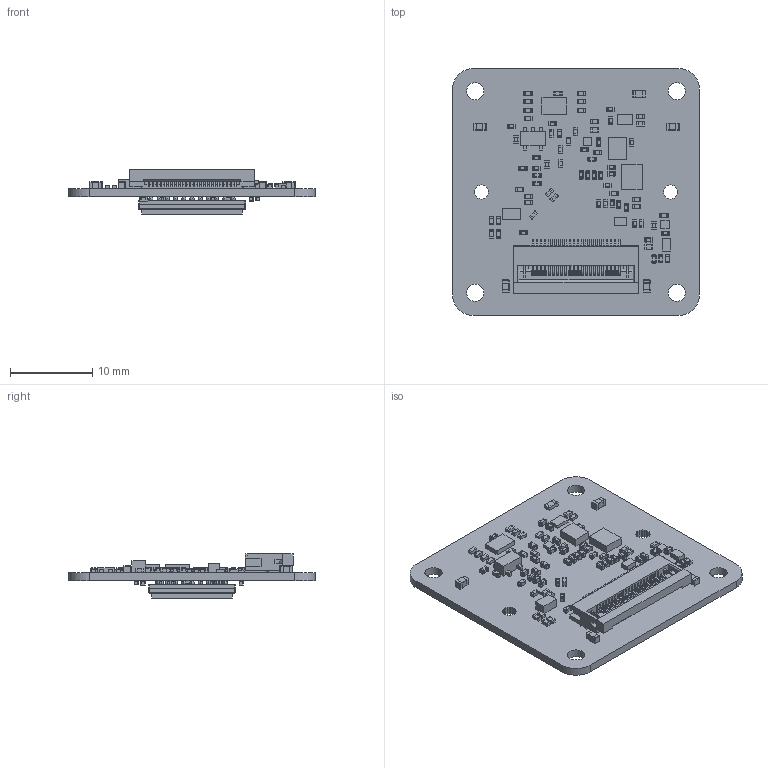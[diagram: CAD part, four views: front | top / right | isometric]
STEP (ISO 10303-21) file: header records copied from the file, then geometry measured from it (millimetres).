
FILE_DESCRIPTION(('Open CASCADE Model'),'2;1');
FILE_NAME('Open CASCADE Shape Model','2025-05-27T14:31:10',('Author'),( 'Open CASCADE'),'Open CASCADE STEP processor 7.5','Open CASCADE 7.5' ,'Unknown');
FILE_SCHEMA(('AUTOMOTIVE_DESIGN { 1 0 10303 214 1 1 1 1 }'));
Length unit declared in the file: millimetre
Products named in the file (148): PCB; Board; Open CASCADE STEP translator 7.5 1.1.1; R29; TIS_0402R_L02_H04; R28; C50; TIS_0402C_L025_H06; C49; R27; R26; R25; C23; TIS_0402C_L025_H05; C22; C14; U1; AR2020CSSC13SMTA0-DP; R24; R23; R22; R5; U8; 7342197280; Extruded; U3; 7047993712; U2; 6814861664; R21; FB3; TIS_0402L_L02_H06; FB2; C48; C47; C46; C45; C44; C43; R20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
Assembly tree (440 placements, depth 4):
  PCB
    Board
      Open CASCADE STEP translator 7.5 1.1.1
    R29
      TIS_0402R_L02_H04
      TIS_0402R_L02_H04
      TIS_0402R_L02_H04
      TIS_0402R_L02_H04
    R28
      TIS_0402R_L02_H04
      TIS_0402R_L02_H04
      TIS_0402R_L02_H04
      TIS_0402R_L02_H04
    C50
      TIS_0402C_L025_H06
      TIS_0402C_L025_H06
      TIS_0402C_L025_H06
    C49
      TIS_0402C_L025_H06
      TIS_0402C_L025_H06
      TIS_0402C_L025_H06
    R27
      TIS_0402R_L02_H04
      TIS_0402R_L02_H04
      TIS_0402R_L02_H04
      TIS_0402R_L02_H04
    R26
      TIS_0402R_L02_H04
      TIS_0402R_L02_H04
      TIS_0402R_L02_H04
      TIS_0402R_L02_H04
    R25
      TIS_0402R_L02_H04
      TIS_0402R_L02_H04
      TIS_0402R_L02_H04
      TIS_0402R_L02_H04
    C23
      TIS_0402C_L025_H05
      TIS_0402C_L025_H05
      TIS_0402C_L025_H05
    C22
      TIS_0402C_L025_H05
      TIS_0402C_L025_H05
      TIS_0402C_L025_H05
    C14
      TIS_0402C_L025_H06
      TIS_0402C_L025_H06
      TIS_0402C_L025_H06
    U1
      AR2020CSSC13SMTA0-DP
    R24
      TIS_0402R_L02_H04
      TIS_0402R_L02_H04
      TIS_0402R_L02_H04
      TIS_0402R_L02_H04
    R23
      TIS_0402R_L02_H04
      TIS_0402R_L02_H04
      TIS_0402R_L02_H04
      TIS_0402R_L02_H04
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Bounding box: 30.01 x 30 x 5.36 mm (x, y, z)
Volume: 1292.8 mm3; surface area: 4274.6 mm2
Topology: 412 solids, 412 shells, 6284 faces, 15307 edges, 9132 vertices
Faces by surface type: plane 3036, cylinder 2172, sphere 620, torus 456
Full cylindrical faces by diameter (mm): 2.1 x4
Entity records: 44533 total; most frequent: CARTESIAN_POINT 7204, DIRECTION 6494, ORIENTED_EDGE 5840, EDGE_CURVE 2920, AXIS2_PLACEMENT_3D 2220, LINE 2054, VECTOR 2054, VERTEX_POINT 1994
